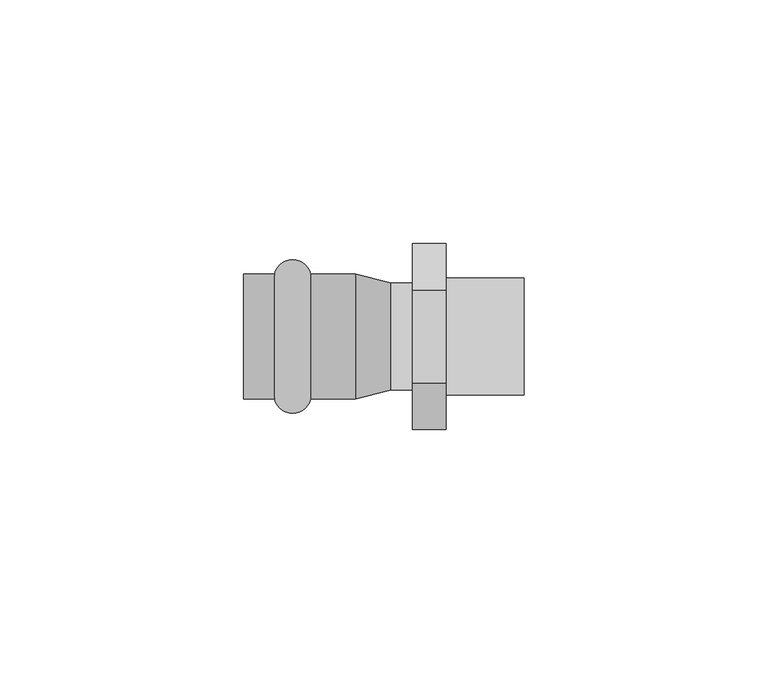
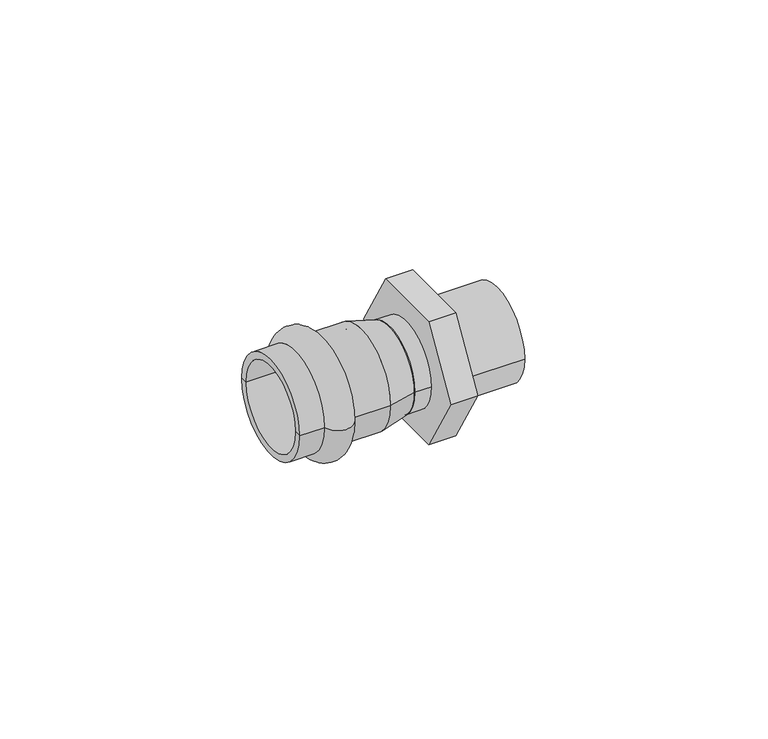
"""IFC4 building model written with IfcOpenShell, lengths in millimetres: pipe fitting geometry, VALTEC_VTi.901.I_Соединитель прямой с переходом на наружную резьбу_Нержавеющая сталь : VTi.901.I."""

from ifc_helpers import new_model, si_unit, point, frame, origin, origin_2d, place, context, project, spatial, polyline, circle_curve, ellipse_curve, trimmed, segment, composite_curve, outline, extrude, source, transform, mapped, element, save
from ifc_brep_helpers import plane_surface, cylinder_surface, revolved_surface, advanced_brep


def pipe_fitting_3219fab3(model_context):
    return source(origin(), model_context, "Body", "SolidModel", [
        advanced_brep(
        [(-31.6992346, -12.8, 0.0), (-31.6992346, 12.8, 0.0), (-24.3507654, 12.8, 0.0), (-24.3507654, -12.8, 0.0), (-38.075, -12.8, 0.0), (-38.075, 12.8, 0.0), (-38.075, -11.0, 0.0), (-38.075, 11.0, 0.0), (-15.075, -11.0, 0.0), (-15.075, 11.0, 0.0), (-15.075, -12.8, 0.0), (-15.075, 12.8, 0.0)],
        [
            (0, 1, circle_curve(frame((-31.6992346, 0.0, 0.0), z_axis=(1.0, 0.0, 0.0), x_axis=(0.0, 1.0, 0.0)), 12.8)),
            (1, 2, circle_curve(frame((-28.025, 12.05, 0.0), z_axis=(0.0, 0.0, -1.0), x_axis=(1.0, 0.0, 0.0)), 3.75)),
            (2, 3, circle_curve(frame((-24.3507654, 0.0, 0.0), z_axis=(-1.0, 0.0, 0.0), x_axis=(0.0, 1.0, 0.0)), 12.8)),
            (3, 0, circle_curve(frame((-28.025, -12.05, 0.0), z_axis=(0.0, 0.0, -1.0), x_axis=(1.0, 0.0, 0.0)), 3.75)),
            (1, 0, circle_curve(frame((-31.6992346, 0.0, 0.0), z_axis=(1.0, 0.0, 0.0), x_axis=(0.0, 1.0, 0.0)), 12.8)),
            (3, 2, circle_curve(frame((-24.3507654, 0.0, 0.0), z_axis=(-1.0, 0.0, 0.0), x_axis=(0.0, 1.0, 0.0)), 12.8)),
            (4, 5, circle_curve(frame((-38.075, 0.0, 0.0), z_axis=(1.0, 0.0, 0.0), x_axis=(0.0, 1.0, 0.0)), 12.8)),
            (5, 1),
            (0, 4),
            (5, 4, circle_curve(frame((-38.075, 0.0, 0.0), z_axis=(1.0, 0.0, 0.0), x_axis=(0.0, 1.0, 0.0)), 12.8)),
            (6, 7, circle_curve(frame((-38.075, 0.0, 0.0), z_axis=(1.0, 0.0, 0.0), x_axis=(0.0, 1.0, 0.0)), 11.0)),
            (7, 5),
            (4, 6),
            (7, 6, circle_curve(frame((-38.075, 0.0, 0.0), z_axis=(1.0, 0.0, 0.0), x_axis=(0.0, 1.0, 0.0)), 11.0)),
            (8, 9, circle_curve(frame((-15.075, 0.0, 0.0), z_axis=(1.0, 0.0, 0.0), x_axis=(0.0, 1.0, 0.0)), 11.0)),
            (9, 7),
            (6, 8),
            (9, 8, circle_curve(frame((-15.075, 0.0, 0.0), z_axis=(1.0, 0.0, 0.0), x_axis=(0.0, 1.0, 0.0)), 11.0)),
            (10, 11, circle_curve(frame((-15.075, 0.0, 0.0), z_axis=(1.0, 0.0, 0.0), x_axis=(0.0, 1.0, 0.0)), 12.8)),
            (11, 9),
            (8, 10),
            (11, 10, circle_curve(frame((-15.075, 0.0, 0.0), z_axis=(1.0, 0.0, 0.0), x_axis=(0.0, 1.0, 0.0)), 12.8)),
            (2, 11),
            (10, 3),
        ],
        [
            revolved_surface(trimmed(ellipse_curve(frame((-28.025, 12.05, 0.0), z_axis=(0.0, 0.0, 1.0), x_axis=(1.0, 0.0, 0.0)), 3.75, 3.75), [point((-24.3507654, 12.8, 0.0))], [point((-31.6992346, 12.8, 0.0))], True, "CARTESIAN"), (-41.6114426, 0.0, 0.0), (-1.0, 0.0, 0.0)),
            cylinder_surface(frame((-41.6114426, 0.0, 0.0), z_axis=(-1.0, 0.0, 0.0), x_axis=(0.0, 1.0, 0.0)), 12.8),
            plane_surface(frame((-38.075, 0.0, 0.0), z_axis=(-1.0, 0.0, 0.0), x_axis=(0.0, 1.0, 0.0))),
            revolved_surface(polyline([(-38.075, 11.0, 0.0), (-15.075, 11.0, 0.0)]), (-41.6114426, 0.0, 0.0), (-1.0, 0.0, 0.0)),
            plane_surface(frame((-15.075, 0.0, 0.0), z_axis=(1.0, 0.0, 0.0), x_axis=(0.0, 1.0, 0.0))),
        ],
        [
            (0, [[1, 2, 3, 4]]),
            (0, [[5, -4, 6, -2]]),
            (1, [[7, 8, -1, 9]]),
            (1, [[10, -9, -5, -8]]),
            (2, [[11, 12, -7, 13]]),
            (2, [[14, -13, -10, -12]]),
            (3, [[15, 16, -11, 17]]),
            (3, [[18, -17, -14, -16]]),
            (4, [[19, 20, -15, 21]]),
            (4, [[22, -21, -18, -20]]),
            (1, [[-3, 23, -19, 24]]),
            (1, [[-6, -24, -22, -23]]),
        ],
    ),
        extrude(outline(polyline([(-19.0525589, 0.0), (-9.5262794, 16.5), (9.5262794, 16.5), (19.0525589, 0.0), (9.5262794, -16.5), (-9.5262794, -16.5), (-19.0525589, 0.0)])), frame((-3.425, 0.0, 0.0), z_axis=(1.0, 0.0, 0.0), x_axis=(0.0, 1.0, 0.0)), (0.0, 0.0, 1.0), 6.85),
        extrude(outline(composite_curve([segment(trimmed(circle_curve(origin_2d(), 11.0), [point((-11.0, 0.0))], [point((11.0, 0.0))], False, "CARTESIAN"), True, "CONTINUOUS"), segment(trimmed(circle_curve(origin_2d(), 11.0), [point((11.0, 0.0))], [point((-11.0, 0.0))], False, "CARTESIAN"), True, "CONTINUOUS")], self_intersect=False)), frame((-7.8183127, 0.0, 0.0), z_axis=(1.0, 0.0, 0.0), x_axis=(0.0, 1.0, 0.0)), (0.0, 0.0, 1.0), 4.3933127),
        advanced_brep(
        [(-15.075, -12.8, 0.0), (-15.075, 12.8, 0.0), (-7.8183127, -11.0, 0.0), (-7.8183127, 11.0, 0.0)],
        [
            (0, 1, circle_curve(frame((-15.075, 0.0, 0.0), z_axis=(-1.0, 0.0, 0.0), x_axis=(0.0, -1.0, 0.0)), 12.8)),
            (1, 0, circle_curve(frame((-15.075, 0.0, 0.0), z_axis=(-1.0, 0.0, 0.0), x_axis=(0.0, 1.0, 0.0)), 12.8)),
            (2, 3, circle_curve(frame((-7.8183127, 0.0, 0.0), z_axis=(1.0, 0.0, 0.0), x_axis=(0.0, 1.0, 0.0)), 11.0)),
            (3, 2, circle_curve(frame((-7.8183127, 0.0, 0.0), z_axis=(1.0, 0.0, 0.0), x_axis=(0.0, -1.0, 0.0)), 11.0)),
            (2, 0),
            (1, 3),
        ],
        [
            plane_surface(frame((-15.075, 0.0, 0.0), z_axis=(-1.0, 0.0, 0.0), x_axis=(0.0, 0.0, -1.0))),
            plane_surface(frame((-7.8183127, 0.0, 0.0), z_axis=(1.0, 0.0, 0.0), x_axis=(0.0, 0.0, -1.0))),
            revolved_surface(polyline([(-7.8183127, -11.000000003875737, 0.0), (-15.074999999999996, -12.8, 0.0)]), (36.5281098, 0.0, 0.0), (-1.0, 0.0, 0.0)),
            revolved_surface(polyline([(-7.8183127, 11.000000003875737, 0.0), (-15.074999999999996, 12.8, 0.0)]), (36.5281098, 0.0, 0.0), (-1.0, 0.0, 0.0)),
        ],
        [
            (0, [[1, 2]]),
            (1, [[3, 4]]),
            (2, [[-3, 5, -2, 6]]),
            (3, [[-4, -6, -1, -5]]),
        ],
    ),
        extrude(outline(composite_curve([segment(trimmed(circle_curve(origin_2d(), 12.0), [point((-12.0, 0.0))], [point((12.0, 0.0))], False, "CARTESIAN"), True, "CONTINUOUS"), segment(trimmed(circle_curve(origin_2d(), 12.0), [point((12.0, 0.0))], [point((-12.0, 0.0))], False, "CARTESIAN"), True, "CONTINUOUS")], self_intersect=False), holes=[composite_curve([segment(trimmed(circle_curve(origin_2d(), 10.0), [point((-10.0, 0.0))], [point((10.0, 0.0))], True, "CARTESIAN"), True, "CONTINUOUS"), segment(trimmed(circle_curve(origin_2d(), 10.0), [point((10.0, 0.0))], [point((-10.0, 0.0))], True, "CARTESIAN"), True, "CONTINUOUS")], self_intersect=False)]), frame((3.425, 0.0, 0.0), z_axis=(1.0, 0.0, 0.0), x_axis=(0.0, 1.0, 0.0)), (0.0, 0.0, 1.0), 16.0),
    ])


if __name__ == "__main__":
    model = new_model("IFC4")
    model_context = context("Model", 3, world=origin())
    ifc_project = project(units=[si_unit("LENGTHUNIT", "METRE", prefix="MILLI")], contexts=[model_context])
    site = spatial("IfcSite", under=ifc_project)
    building = spatial("IfcBuilding", under=site)
    placement = place(None, origin())
    pipe_fitting_shape = pipe_fitting_3219fab3(model_context)
    element("IfcPipeFitting", 1, ObjectType="VALTEC_VTi.901.I_Соединитель прямой с переходом на наружную резьбу_Нержавеющая сталь : VTi.901.I", at=placement, inside=building, context=model_context, shape_type="MappedRepresentation", body=[
        mapped(pipe_fitting_shape, transform((0.0, 0.0, 0.0), x_axis=(1.0, 0.0, 0.0), y_axis=(0.0, 1.0, 0.0), z_axis=(0.0, 0.0, 1.0))),
    ])
    save(model, "model.ifc")
